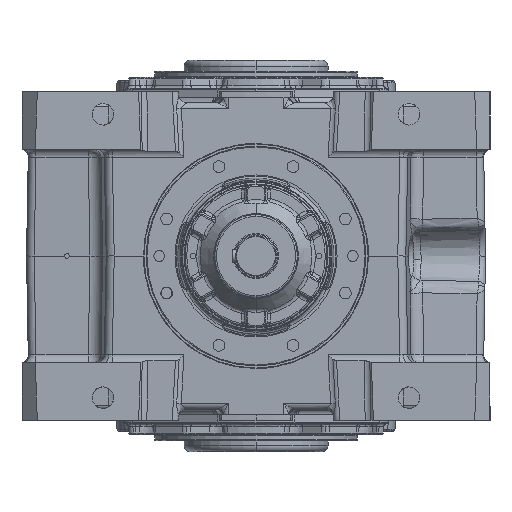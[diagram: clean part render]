
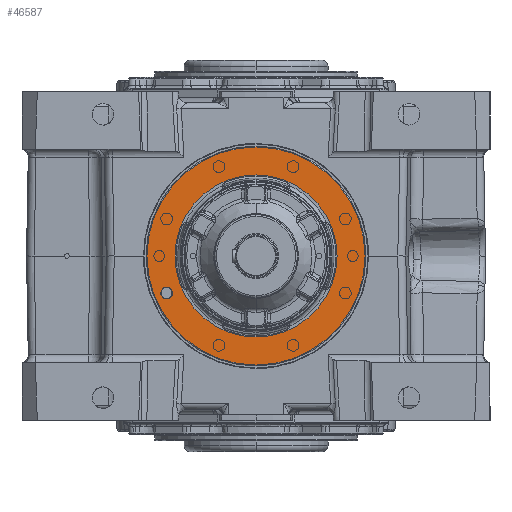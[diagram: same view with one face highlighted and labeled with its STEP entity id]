
A CAD part, left-side view. The second image highlights one B-rep face of the part: STEP entity #46587.
In plain terms, the highlighted planar face has unit normal (-1, 0, 0).
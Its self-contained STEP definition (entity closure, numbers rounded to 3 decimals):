
#6543 = EDGE_CURVE ( 'NONE', #169909, #113177, #19248, .T. ) ;
#7368 = AXIS2_PLACEMENT_3D ( 'NONE', #45227, #19671, #148069 ) ;
#10043 = DIRECTION ( 'NONE',  ( 0., 0., 1. ) ) ;
#16140 = DIRECTION ( 'NONE',  ( 0., 0., 1. ) ) ;
#16852 = VERTEX_POINT ( 'NONE', #147735 ) ;
#19248 = CIRCLE ( 'NONE', #127757, 6. ) ;
#19671 = DIRECTION ( 'NONE',  ( -1., 0., 0. ) ) ;
#20300 = EDGE_CURVE ( 'NONE', #114117, #47773, #150342, .T. ) ;
#23212 = DIRECTION ( 'NONE',  ( 0., 0., 1. ) ) ;
#23630 = CIRCLE ( 'NONE', #47723, 121.156 ) ;
#25735 = ORIENTED_EDGE ( 'NONE', *, *, #147647, .T. ) ;
#45227 = CARTESIAN_POINT ( 'NONE',  ( -604., 0., 0. ) ) ;
#46055 = DIRECTION ( 'NONE',  ( -1., 0., 0. ) ) ;
#46587 = ADVANCED_FACE ( 'NONE', ( #87697, #145311, #62161 ), #117902, .T. ) ;
#47723 = AXIS2_PLACEMENT_3D ( 'NONE', #131944, #46055, #105458 ) ;
#47773 = VERTEX_POINT ( 'NONE', #139745 ) ;
#49612 = DIRECTION ( 'NONE',  ( 0., 0., 1. ) ) ;
#53896 = AXIS2_PLACEMENT_3D ( 'NONE', #65674, #168549, #23212 ) ;
#62161 = FACE_BOUND ( 'NONE', #129486, .T. ) ;
#64713 = DIRECTION ( 'NONE',  ( 1., 0., 0. ) ) ;
#65674 = CARTESIAN_POINT ( 'NONE',  ( -604., 0., 0. ) ) ;
#73116 = EDGE_CURVE ( 'NONE', #47773, #114117, #111698, .T. ) ;
#83083 = ORIENTED_EDGE ( 'NONE', *, *, #20300, .T. ) ;
#84900 = ORIENTED_EDGE ( 'NONE', *, *, #6543, .F. ) ;
#87697 = FACE_BOUND ( 'NONE', #109130, .T. ) ;
#90790 = AXIS2_PLACEMENT_3D ( 'NONE', #151657, #180937, #10043 ) ;
#91671 = AXIS2_PLACEMENT_3D ( 'NONE', #127977, #128912, #112890 ) ;
#105035 = CARTESIAN_POINT ( 'NONE',  ( -604., 0., 121.156 ) ) ;
#105458 = DIRECTION ( 'NONE',  ( 0., 0., 1. ) ) ;
#109130 = EDGE_LOOP ( 'NONE', ( #84900, #133789 ) ) ;
#111698 = CIRCLE ( 'NONE', #153999, 1. ) ;
#112890 = DIRECTION ( 'NONE',  ( 0., 0., 1. ) ) ;
#113177 = VERTEX_POINT ( 'NONE', #172119 ) ;
#113334 = EDGE_LOOP ( 'NONE', ( #25735, #116808 ) ) ;
#114117 = VERTEX_POINT ( 'NONE', #168679 ) ;
#116757 = ORIENTED_EDGE ( 'NONE', *, *, #73116, .T. ) ;
#116808 = ORIENTED_EDGE ( 'NONE', *, *, #122977, .T. ) ;
#117902 = PLANE ( 'NONE',  #7368 ) ;
#122977 = EDGE_CURVE ( 'NONE', #16852, #125518, #136078, .T. ) ;
#125518 = VERTEX_POINT ( 'NONE', #105035 ) ;
#126557 = CARTESIAN_POINT ( 'NONE',  ( -604., 99.317, -35.138 ) ) ;
#127757 = AXIS2_PLACEMENT_3D ( 'NONE', #159608, #158682, #16140 ) ;
#127977 = CARTESIAN_POINT ( 'NONE',  ( -604., 99.317, -41.138 ) ) ;
#128912 = DIRECTION ( 'NONE',  ( -1., 0., 0. ) ) ;
#129486 = EDGE_LOOP ( 'NONE', ( #83083, #116757 ) ) ;
#131944 = CARTESIAN_POINT ( 'NONE',  ( -604., 0., 0. ) ) ;
#133789 = ORIENTED_EDGE ( 'NONE', *, *, #179111, .F. ) ;
#136078 = CIRCLE ( 'NONE', #90790, 121.156 ) ;
#139745 = CARTESIAN_POINT ( 'NONE',  ( -604., 0., -1. ) ) ;
#145311 = FACE_OUTER_BOUND ( 'NONE', #113334, .T. ) ;
#147647 = EDGE_CURVE ( 'NONE', #125518, #16852, #23630, .T. ) ;
#147735 = CARTESIAN_POINT ( 'NONE',  ( -604., 0., -121.156 ) ) ;
#148069 = DIRECTION ( 'NONE',  ( 0., 0., 1. ) ) ;
#150342 = CIRCLE ( 'NONE', #53896, 1. ) ;
#151657 = CARTESIAN_POINT ( 'NONE',  ( -604., 0., 0. ) ) ;
#151951 = CIRCLE ( 'NONE', #91671, 6. ) ;
#153999 = AXIS2_PLACEMENT_3D ( 'NONE', #174540, #64713, #49612 ) ;
#158682 = DIRECTION ( 'NONE',  ( -1., 0., 0. ) ) ;
#159608 = CARTESIAN_POINT ( 'NONE',  ( -604., 99.317, -41.138 ) ) ;
#168549 = DIRECTION ( 'NONE',  ( 1., 0., 0. ) ) ;
#168679 = CARTESIAN_POINT ( 'NONE',  ( -604., 0., 1. ) ) ;
#169909 = VERTEX_POINT ( 'NONE', #126557 ) ;
#172119 = CARTESIAN_POINT ( 'NONE',  ( -604., 99.317, -47.138 ) ) ;
#174540 = CARTESIAN_POINT ( 'NONE',  ( -604., 0., 0. ) ) ;
#179111 = EDGE_CURVE ( 'NONE', #113177, #169909, #151951, .T. ) ;
#180937 = DIRECTION ( 'NONE',  ( -1., 0., 0. ) ) ;
